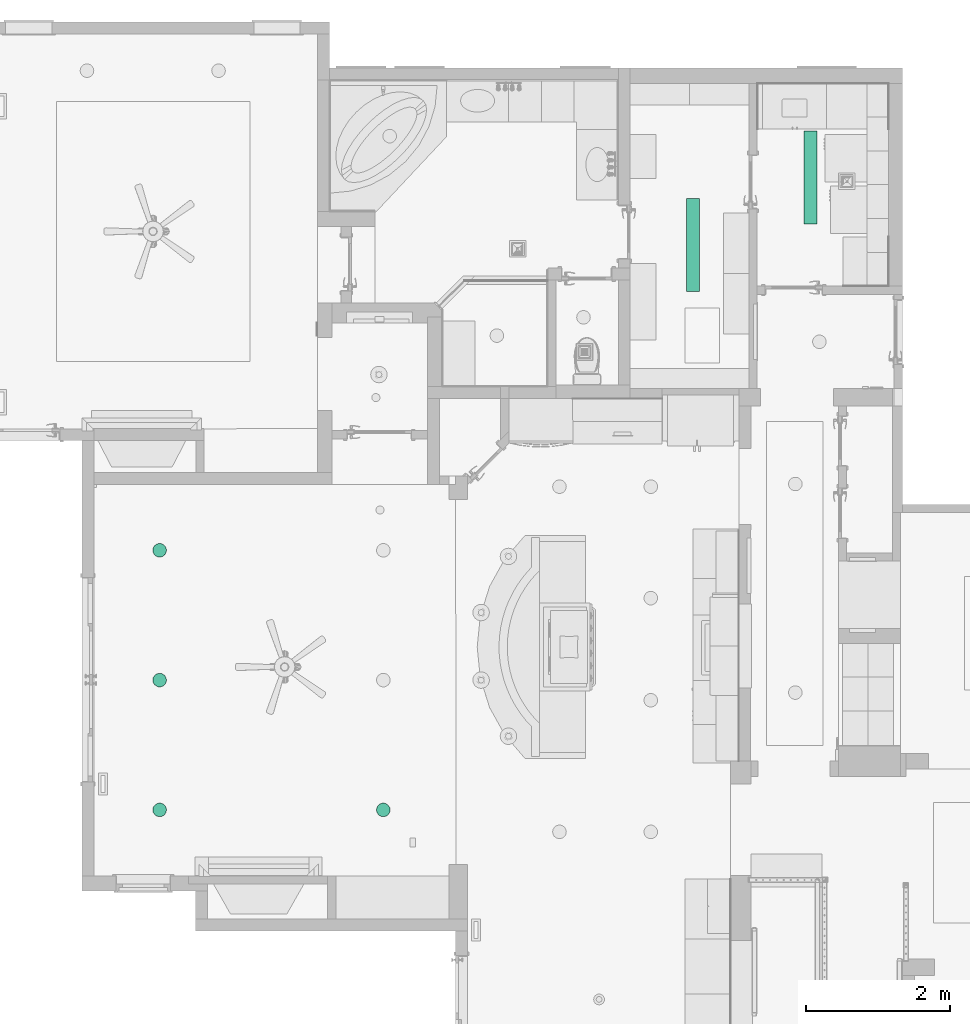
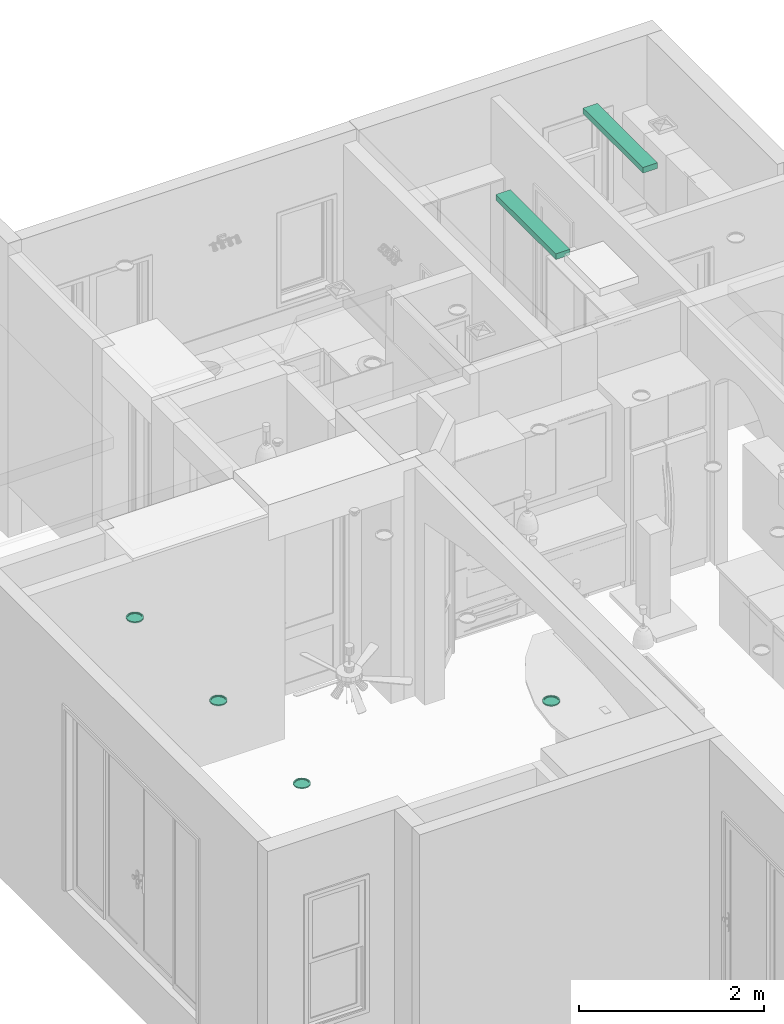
# One storey, part 44 of 77: 6 flow terminals.
"""IFC2X3 building model written with IfcOpenShell, lengths in inches."""

from ifc_helpers import new_model, entity, si_unit, converted_unit, derived_unit, money_unit, direction, frame, origin_with_axes, place, context, subcontext, project, spatial, open_shell, faceted_brep, surface_model, source, transform, mapped, type_object, element, save


model = new_model("IFC2X3")

# Units and contexts
model_context = context("Model", 3, precision=0.000393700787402, world=origin_with_axes(), true_north=direction((0.0, 1.0)))
body_context = subcontext(model_context, "Body", "Model", "MODEL_VIEW")
ifc_project = project(units=[converted_unit("LENGTHUNIT", "INCH", entity("IfcPositiveLengthMeasure", 0.0254), si_unit("LENGTHUNIT", "METRE"), dimensions=[1, 0, 0, 0, 0, 0, 0]), converted_unit("AREAUNIT", "SQUARE_FOOT", entity("IfcPositiveLengthMeasure", 0.09290304), si_unit("AREAUNIT", "SQUARE_METRE"), dimensions=[2, 0, 0, 0, 0, 0, 0]), si_unit("PLANEANGLEUNIT", "RADIAN"), si_unit("SOLIDANGLEUNIT", "STERADIAN"), money_unit("USD"), converted_unit("TIMEUNIT", "Year", entity("IfcTimeMeasure", 31556926.0), si_unit("TIMEUNIT", "SECOND"), dimensions=[0, 0, 1, 0, 0, 0, 0]), si_unit("MASSUNIT", "GRAM", prefix="KILO"), si_unit("THERMODYNAMICTEMPERATUREUNIT", "DEGREE_CELSIUS"), si_unit("LUMINOUSINTENSITYUNIT", "LUMEN"), si_unit("ENERGYUNIT", "JOULE", prefix="MEGA"), derived_unit("THERMALCONDUCTANCEUNIT", [(si_unit("POWERUNIT", "WATT"), 1), (si_unit("LENGTHUNIT", "METRE"), -1), (si_unit("THERMODYNAMICTEMPERATUREUNIT", "KELVIN"), -1)]), derived_unit("SPECIFICHEATCAPACITYUNIT", [(si_unit("ENERGYUNIT", "JOULE"), 1), (si_unit("MASSUNIT", "GRAM", prefix="KILO"), -1), (si_unit("THERMODYNAMICTEMPERATUREUNIT", "KELVIN"), -1)]), derived_unit("MASSDENSITYUNIT", [(si_unit("MASSUNIT", "GRAM", prefix="KILO"), 1), (si_unit("VOLUMEUNIT", "CUBIC_METRE"), -1)])], contexts=[model_context])

# Site, building, storey
site_placement = place(None, origin_with_axes())
site = spatial("IfcSite", under=ifc_project, at=site_placement, Name="Site", CompositionType="ELEMENT")
building_placement = place(site_placement, origin_with_axes())
building = spatial("IfcBuilding", under=site, at=building_placement, Name="Building", CompositionType="ELEMENT")
storey_placement = place(building_placement, frame((0.0, 0.0, 127.952755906), z_axis=(0.0, 0.0, 1.0), x_axis=(1.0, 0.0, 0.0)))
storey = spatial("IfcBuildingStorey", under=building, at=storey_placement, Name="Second Floor", CompositionType="ELEMENT", Elevation=127.953)

# Flow terminals
light_fixture_type_1 = type_object("IfcLightFixtureType", Name="Recessed Spot 25", PredefinedType="NOTDEFINED")
shared_shape_1 = source(origin_with_axes(), body_context, "Body", "SurfaceModel", [
    faceted_brep([(3.74015748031, 0.0, -0.590551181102), (3.51459838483, 1.27920919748, -0.590551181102), (3.51459838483, 1.27920919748, 0.0), (3.74015748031, 0.0, 0.0), (3.51459838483, -1.27920919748, -0.590551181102), (2.86512685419, -2.40412688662, -0.590551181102), (1.87007874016, -3.23907139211, -0.590551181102), (0.649471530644, -3.6833360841, -0.590551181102), (-0.649471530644, -3.6833360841, -0.590551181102), (-1.87007874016, -3.23907139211, -0.590551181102), (-2.86512685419, -2.40412688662, -0.590551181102), (-3.51459838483, -1.27920919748, -0.590551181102), (-3.74015748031, 0.0, -0.590551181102), (-3.51459838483, 1.27920919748, -0.590551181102), (-2.86512685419, 2.40412688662, -0.590551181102), (-1.87007874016, 3.23907139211, -0.590551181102), (-0.649471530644, 3.6833360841, -0.590551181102), (0.649471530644, 3.6833360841, -0.590551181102), (1.87007874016, 3.23907139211, -0.590551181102), (2.86512685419, 2.40412688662, -0.590551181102), (3.14960629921, 0.0, -0.590551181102), (2.95966179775, 1.07722879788, -0.590551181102), (2.41273840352, 2.02452790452, -0.590551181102), (1.57480314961, 2.72763906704, -0.590551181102), (0.546923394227, 3.1017567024, -0.590551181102), (-0.546923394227, 3.1017567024, -0.590551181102), (-1.57480314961, 2.72763906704, -0.590551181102), (-2.41273840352, 2.02452790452, -0.590551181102), (-2.95966179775, 1.07722879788, -0.590551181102), (-3.14960629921, 0.0, -0.590551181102), (-2.95966179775, -1.07722879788, -0.590551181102), (-2.41273840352, -2.02452790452, -0.590551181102), (-1.57480314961, -2.72763906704, -0.590551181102), (-0.546923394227, -3.1017567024, -0.590551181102), (0.546923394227, -3.1017567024, -0.590551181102), (1.57480314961, -2.72763906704, -0.590551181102), (2.41273840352, -2.02452790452, -0.590551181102), (2.95966179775, -1.07722879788, -0.590551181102), (2.86512685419, 2.40412688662, 0.0), (1.87007874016, 3.23907139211, 0.0), (0.649471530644, 3.6833360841, 0.0), (-0.649471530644, 3.6833360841, 0.0), (-1.87007874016, 3.23907139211, 0.0), (-2.86512685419, 2.40412688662, 0.0), (-3.51459838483, 1.27920919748, 0.0), (-3.74015748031, 0.0, 0.0), (-3.51459838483, -1.27920919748, 0.0), (-2.86512685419, -2.40412688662, 0.0), (-1.87007874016, -3.23907139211, 0.0), (-0.649471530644, -3.6833360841, 0.0), (0.649471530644, -3.6833360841, 0.0), (1.87007874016, -3.23907139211, 0.0), (2.86512685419, -2.40412688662, 0.0), (3.51459838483, -1.27920919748, 0.0), (3.14960629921, 0.0, 0.0), (2.95966179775, -1.07722879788, 0.0), (2.41273840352, -2.02452790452, 0.0), (1.57480314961, -2.72763906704, 0.0), (0.546923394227, -3.1017567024, 0.0), (-0.546923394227, -3.1017567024, 0.0), (-1.57480314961, -2.72763906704, 0.0), (-2.41273840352, -2.02452790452, 0.0), (-2.95966179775, -1.07722879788, 0.0), (-3.14960629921, 0.0, 0.0), (-2.95966179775, 1.07722879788, 0.0), (-2.41273840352, 2.02452790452, 0.0), (-1.57480314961, 2.72763906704, 0.0), (-0.546923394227, 3.1017567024, 0.0), (0.546923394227, 3.1017567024, 0.0), (1.57480314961, 2.72763906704, 0.0), (2.41273840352, 2.02452790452, 0.0), (2.95966179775, 1.07722879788, 0.0)], [[[0, 1, 2, 3]], [[0, 4, 5, 6, 7, 8, 9, 10, 11, 12, 13, 14, 15, 16, 17, 18, 19, 1], [20, 21, 22, 23, 24, 25, 26, 27, 28, 29, 30, 31, 32, 33, 34, 35, 36, 37]], [[1, 19, 38, 2]], [[3, 2, 38, 39, 40, 41, 42, 43, 44, 45, 46, 47, 48, 49, 50, 51, 52, 53], [54, 55, 56, 57, 58, 59, 60, 61, 62, 63, 64, 65, 66, 67, 68, 69, 70, 71]], [[4, 0, 3, 53]], [[5, 4, 53, 52]], [[6, 5, 52, 51]], [[7, 6, 51, 50]], [[8, 7, 50, 49]], [[9, 8, 49, 48]], [[10, 9, 48, 47]], [[11, 10, 47, 46]], [[12, 11, 46, 45]], [[13, 12, 45, 44]], [[14, 13, 44, 43]], [[15, 14, 43, 42]], [[16, 15, 42, 41]], [[17, 16, 41, 40]], [[18, 17, 40, 39]], [[19, 18, 39, 38]], [[21, 20, 54, 71]], [[22, 21, 71, 70]], [[23, 22, 70, 69]], [[24, 23, 69, 68]], [[25, 24, 68, 67]], [[26, 25, 67, 66]], [[27, 26, 66, 65]], [[28, 27, 65, 64]], [[29, 28, 64, 63]], [[30, 29, 63, 62]], [[31, 30, 62, 61]], [[32, 31, 61, 60]], [[33, 32, 60, 59]], [[34, 33, 59, 58]], [[35, 34, 58, 57]], [[36, 35, 57, 56]], [[37, 36, 56, 55]], [[20, 37, 55, 54]]]),
    surface_model("IfcShellBasedSurfaceModel", [(3.14960629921, 0.0, -0.527559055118), (2.95966179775, -1.07722879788, -0.527559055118), (2.41273840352, -2.02452790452, -0.527559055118), (1.57480314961, -2.72763906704, -0.527559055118), (0.546923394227, -3.1017567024, -0.527559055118), (-0.546923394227, -3.1017567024, -0.527559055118), (-1.57480314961, -2.72763906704, -0.527559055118), (-2.41273840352, -2.02452790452, -0.527559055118), (-2.95966179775, -1.07722879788, -0.527559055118), (-3.14960629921, 0.0, -0.527559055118), (-2.95966179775, 1.07722879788, -0.527559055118), (-2.41273840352, 2.02452790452, -0.527559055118), (-1.57480314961, 2.72763906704, -0.527559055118), (-0.546923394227, 3.1017567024, -0.527559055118), (0.546923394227, 3.1017567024, -0.527559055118), (1.57480314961, 2.72763906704, -0.527559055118), (2.41273840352, 2.02452790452, -0.527559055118), (2.95966179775, 1.07722879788, -0.527559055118)], [open_shell([[[0, 1, 2, 3, 4, 5, 6, 7, 8, 9, 10, 11, 12, 13, 14, 15, 16, 17]]])]),
])
for number, where, z_axis, x_axis, name in (
    (1, (320.358626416, 183.203833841, 118.503937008), (0.0, 0.0, 1.0), (1.0, 0.0, 0.0), "L-03"),
    (2, (320.358626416, 254.266825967, 118.503937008), (0.0, 0.0, 1.0), (1.0, 0.0, 0.0), "L-03"),
    (3, (442.814277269, 183.203833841, 118.503937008), (0.0, 0.0, 1.0), (1.0, 0.0, 0.0), "L-03"),
    (4, (320.358626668, 325.344179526, 118.503937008), (0.0, 0.0, 1.0), (1.0, 0.0, 0.0), "L-03"),
):
    element("IfcFlowTerminal", number, at=place(storey_placement, frame(where, z_axis=z_axis, x_axis=x_axis)), inside=storey, type_object=light_fixture_type_1, Name=name, context=body_context, shape_type="MappedRepresentation", body=[
        mapped(shared_shape_1, transform((0.0, 0.0, 0.0))),
    ])
light_fixture_type_2 = type_object("IfcLightFixtureType", Name="Fluorescent Lamp 25", PredefinedType="NOTDEFINED")
shared_shape_2 = source(origin_with_axes(), body_context, "Body", "SurfaceModel", [
    faceted_brep([(0.0, 0.0, -2.95275590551), (50.9842519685, 0.0, -2.95275590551), (50.9842519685, 0.0, 0.0), (0.0, 0.0, 0.0), (0.0, 7.08661417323, -2.95275590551), (50.9842519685, 7.08661417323, -2.95275590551), (1.57480314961, 1.57480314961, -2.95275590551), (49.4094488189, 1.57480314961, -2.95275590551), (49.4094488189, 5.51181102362, -2.95275590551), (1.57480314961, 5.51181102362, -2.95275590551), (50.9842519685, 7.08661417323, 0.0), (0.0, 7.08661417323, 0.0), (1.57480314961, 1.57480314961, 0.0), (1.57480314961, 5.51181102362, 0.0), (49.4094488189, 5.51181102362, 0.0), (49.4094488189, 1.57480314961, 0.0)], [[[0, 1, 2, 3]], [[0, 4, 5, 1], [6, 7, 8, 9]], [[1, 5, 10, 2]], [[3, 2, 10, 11], [12, 13, 14, 15]], [[4, 0, 3, 11]], [[5, 4, 11, 10]], [[7, 6, 12, 15]], [[8, 7, 15, 14]], [[9, 8, 14, 13]], [[6, 9, 13, 12]]]),
    faceted_brep([(1.57480314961, 1.57480314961, -0.314960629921), (49.4094488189, 1.57480314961, -0.314960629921), (49.4094488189, 1.57480314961, 0.0), (1.57480314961, 1.57480314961, 0.0), (1.57480314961, 5.51181102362, -0.314960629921), (49.4094488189, 5.51181102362, -0.314960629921), (49.4094488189, 5.51181102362, 0.0), (1.57480314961, 5.51181102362, 0.0)], [[[0, 1, 2, 3]], [[0, 4, 5, 1]], [[1, 5, 6, 2]], [[3, 2, 6, 7]], [[4, 0, 3, 7]], [[5, 4, 7, 6]]]),
    surface_model("IfcShellBasedSurfaceModel", [(49.3700787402, 1.61417322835, -2.95275590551), (1.57480314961, 1.61417322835, -2.95275590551), (1.57480314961, 5.47244094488, -2.95275590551), (49.3700787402, 5.47244094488, -2.95275590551)], [open_shell([[[0, 1, 2, 3]]])]),
    faceted_brep([(1.57480314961, 1.57480314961, -2.95275590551), (49.4094488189, 1.57480314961, -2.95275590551), (49.4094488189, 1.57480314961, -1.37795275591), (1.57480314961, 1.57480314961, -1.37795275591), (1.57480314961, 5.51181102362, -2.95275590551), (49.4094488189, 5.51181102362, -2.95275590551), (1.61417322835, 1.61417322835, -2.95275590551), (49.3700787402, 1.61417322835, -2.95275590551), (49.3700787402, 5.47244094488, -2.95275590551), (1.61417322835, 5.47244094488, -2.95275590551), (49.4094488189, 5.51181102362, -1.37795275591), (1.57480314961, 5.51181102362, -1.37795275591), (1.61417322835, 1.61417322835, -1.37795275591), (1.61417322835, 5.47244094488, -1.37795275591), (49.3700787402, 5.47244094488, -1.37795275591), (49.3700787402, 1.61417322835, -1.37795275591)], [[[0, 1, 2, 3]], [[0, 4, 5, 1], [6, 7, 8, 9]], [[1, 5, 10, 2]], [[3, 2, 10, 11], [12, 13, 14, 15]], [[4, 0, 3, 11]], [[5, 4, 11, 10]], [[7, 6, 12, 15]], [[8, 7, 15, 14]], [[9, 8, 14, 13]], [[6, 9, 13, 12]]]),
    faceted_brep([(1.57480314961, 2.88713910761, -1.57480314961), (1.57480314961, 3.30472185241, -1.4018347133), (49.4094488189, 3.30472185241, -1.4018347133), (49.4094488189, 2.88713910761, -1.57480314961), (1.57480314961, 2.46955636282, -1.4018347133), (1.57480314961, 2.29658792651, -0.984251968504), (1.57480314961, 2.46955636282, -0.566669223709), (1.57480314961, 2.88713910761, -0.393700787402), (1.57480314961, 3.30472185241, -0.566669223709), (1.57480314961, 3.47769028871, -0.984251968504), (1.57480314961, 2.88713910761, -1.49606299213), (1.57480314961, 3.2490441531, -1.34615701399), (1.57480314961, 3.39895013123, -0.984251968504), (1.57480314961, 3.2490441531, -0.622346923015), (1.57480314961, 2.88713910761, -0.472440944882), (1.57480314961, 2.52523406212, -0.622346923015), (1.57480314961, 2.37532808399, -0.984251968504), (1.57480314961, 2.52523406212, -1.34615701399), (49.4094488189, 3.47769028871, -0.984251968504), (49.4094488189, 3.30472185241, -0.566669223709), (49.4094488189, 2.88713910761, -0.393700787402), (49.4094488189, 2.46955636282, -0.566669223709), (49.4094488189, 2.29658792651, -0.984251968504), (49.4094488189, 2.46955636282, -1.4018347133), (49.4094488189, 2.88713910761, -1.49606299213), (49.4094488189, 2.52523406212, -1.34615701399), (49.4094488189, 2.37532808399, -0.984251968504), (49.4094488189, 2.52523406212, -0.622346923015), (49.4094488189, 2.88713910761, -0.472440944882), (49.4094488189, 3.2490441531, -0.622346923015), (49.4094488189, 3.39895013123, -0.984251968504), (49.4094488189, 3.2490441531, -1.34615701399)], [[[0, 1, 2, 3]], [[0, 4, 5, 6, 7, 8, 9, 1], [10, 11, 12, 13, 14, 15, 16, 17]], [[1, 9, 18, 2]], [[3, 2, 18, 19, 20, 21, 22, 23], [24, 25, 26, 27, 28, 29, 30, 31]], [[4, 0, 3, 23]], [[5, 4, 23, 22]], [[6, 5, 22, 21]], [[7, 6, 21, 20]], [[8, 7, 20, 19]], [[9, 8, 19, 18]], [[11, 10, 24, 31]], [[12, 11, 31, 30]], [[13, 12, 30, 29]], [[14, 13, 29, 28]], [[15, 14, 28, 27]], [[16, 15, 27, 26]], [[17, 16, 26, 25]], [[10, 17, 25, 24]]]),
    faceted_brep([(1.57480314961, 4.19947506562, -1.57480314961), (1.57480314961, 4.61705781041, -1.4018347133), (49.4094488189, 4.61705781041, -1.4018347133), (49.4094488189, 4.19947506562, -1.57480314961), (1.57480314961, 3.78189232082, -1.4018347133), (1.57480314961, 3.60892388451, -0.984251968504), (1.57480314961, 3.78189232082, -0.566669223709), (1.57480314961, 4.19947506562, -0.393700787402), (1.57480314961, 4.61705781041, -0.566669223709), (1.57480314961, 4.79002624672, -0.984251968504), (1.57480314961, 4.19947506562, -1.49606299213), (1.57480314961, 4.56138011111, -1.34615701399), (1.57480314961, 4.71128608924, -0.984251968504), (1.57480314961, 4.56138011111, -0.622346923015), (1.57480314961, 4.19947506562, -0.472440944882), (1.57480314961, 3.83757002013, -0.622346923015), (1.57480314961, 3.68766404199, -0.984251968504), (1.57480314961, 3.83757002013, -1.34615701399), (49.4094488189, 4.79002624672, -0.984251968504), (49.4094488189, 4.61705781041, -0.566669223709), (49.4094488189, 4.19947506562, -0.393700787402), (49.4094488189, 3.78189232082, -0.566669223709), (49.4094488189, 3.60892388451, -0.984251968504), (49.4094488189, 3.78189232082, -1.4018347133), (49.4094488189, 4.19947506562, -1.49606299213), (49.4094488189, 3.83757002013, -1.34615701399), (49.4094488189, 3.68766404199, -0.984251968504), (49.4094488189, 3.83757002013, -0.622346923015), (49.4094488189, 4.19947506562, -0.472440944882), (49.4094488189, 4.56138011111, -0.622346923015), (49.4094488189, 4.71128608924, -0.984251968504), (49.4094488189, 4.56138011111, -1.34615701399)], [[[0, 1, 2, 3]], [[0, 4, 5, 6, 7, 8, 9, 1], [10, 11, 12, 13, 14, 15, 16, 17]], [[1, 9, 18, 2]], [[3, 2, 18, 19, 20, 21, 22, 23], [24, 25, 26, 27, 28, 29, 30, 31]], [[4, 0, 3, 23]], [[5, 4, 23, 22]], [[6, 5, 22, 21]], [[7, 6, 21, 20]], [[8, 7, 20, 19]], [[9, 8, 19, 18]], [[11, 10, 24, 31]], [[12, 11, 31, 30]], [[13, 12, 30, 29]], [[14, 13, 29, 28]], [[15, 14, 28, 27]], [[16, 15, 27, 26]], [[17, 16, 26, 25]], [[10, 17, 25, 24]]]),
])
for number, where, z_axis, x_axis, name in (
    (5, (615.993580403, 466.939622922, 120.094488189), (0.0, 0.0, 1.0), (0.0, 1.0, 0.0), "L-15"),
    (6, (680.16680881, 503.947512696, 120.094488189), (0.0, 0.0, 1.0), (0.0, 1.0, 0.0), "L-15"),
):
    element("IfcFlowTerminal", number, at=place(storey_placement, frame(where, z_axis=z_axis, x_axis=x_axis)), inside=storey, type_object=light_fixture_type_2, Name=name, context=body_context, shape_type="MappedRepresentation", body=[
        mapped(shared_shape_2, transform((0.0, 0.0, 0.0))),
    ])

save(model, "model.ifc")
